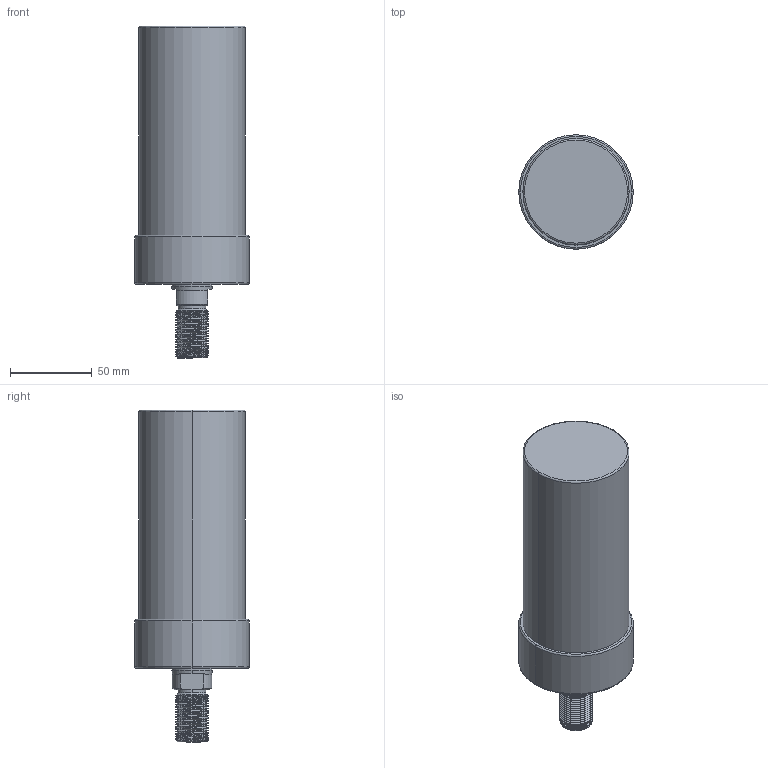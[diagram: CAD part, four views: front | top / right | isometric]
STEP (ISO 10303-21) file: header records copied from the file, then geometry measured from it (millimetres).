
FILE_DESCRIPTION (( 'STEP AP203' ), '1' );
FILE_NAME ('CLLU-065GT-095.STEP', '2020-01-16T02:11:29', ( '' ), ( '' ), 'SwSTEP 2.0', 'SolidWorks 2015', '' );
FILE_SCHEMA (( 'CONFIG_CONTROL_DESIGN' ));
Length unit declared in the file: millimetre
Products named in the file (1): CLLU-065GT-095
Bounding box: 70 x 70 x 203 mm (x, y, z)
Volume: 552918.6 mm3; surface area: 45592.3 mm2
Topology: 1 solids, 1 shells, 105 faces, 267 edges, 165 vertices
Faces by surface type: cylinder 60, cone 26, plane 11, torus 6, bspline 2
Entity records: 5369 total; most frequent: CARTESIAN_POINT 3011, ORIENTED_EDGE 518, DIRECTION 448, EDGE_CURVE 259, AXIS2_PLACEMENT_3D 180, VERTEX_POINT 165, EDGE_LOOP 114, ADVANCED_FACE 105
